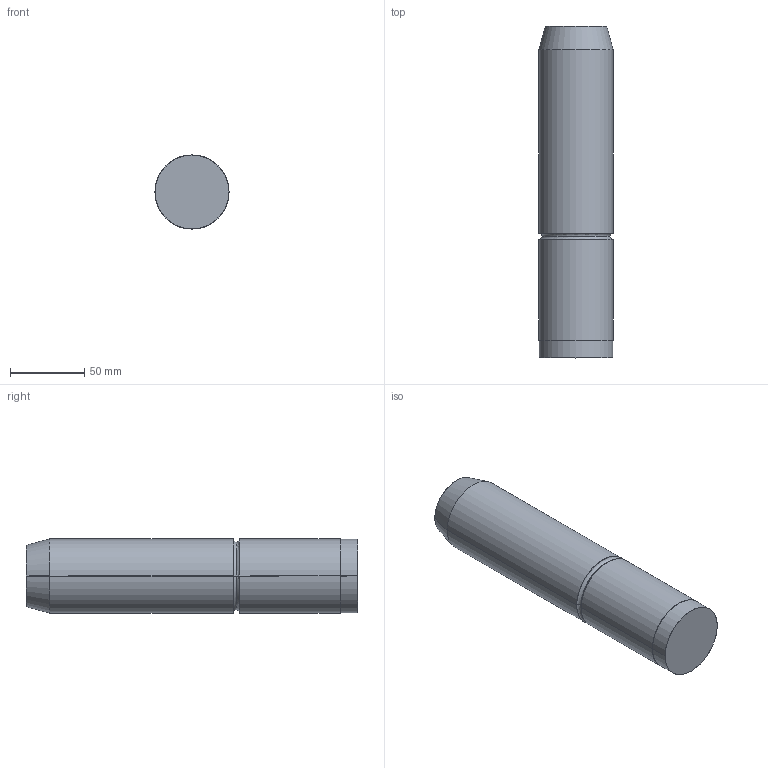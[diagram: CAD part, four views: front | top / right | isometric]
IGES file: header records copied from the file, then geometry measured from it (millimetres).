
Start section: SolidWorks IGES file using analytic representation for surfaces
Global section: file name: C:\Users\Dell\Desktop\delta\hatalýlar\D12\Ø50\D12_50224.igs; native system: SolidWorks 2010; preprocessor: SolidWorks 2010; author: Dell; date: 111218.012047; units: metre
Bounding box: 50 x 224 x 50 mm (x, y, z)
Surface area: 38676.3 mm2 (no closed solid volume)
Topology: 0 solids, 0 shells, 15 faces, 304 edges, 304 vertices
Faces by surface type: revolution 8, bspline 7
